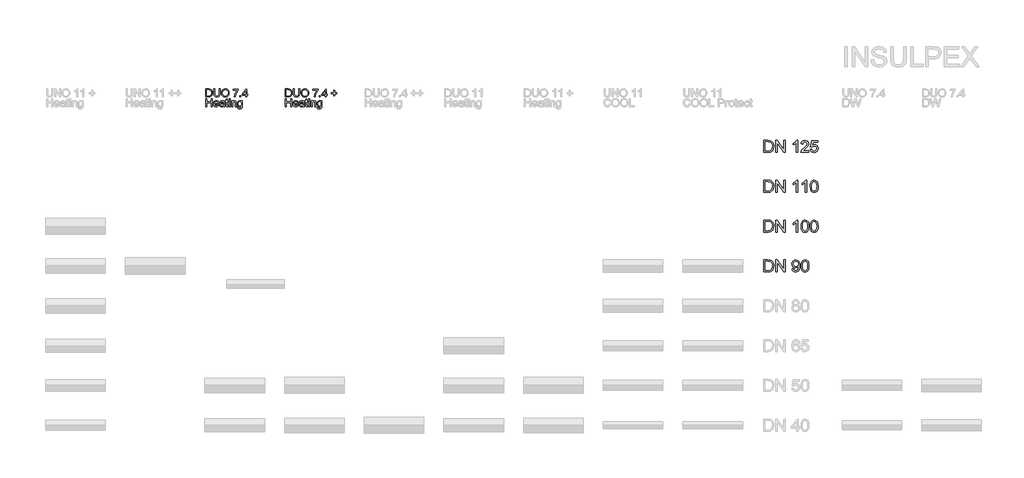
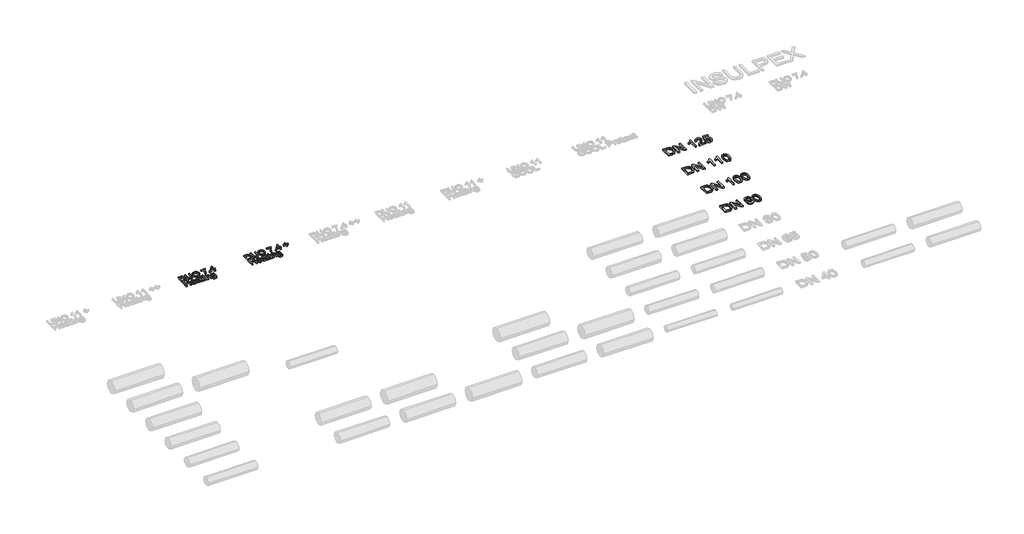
# One storey, part 32 of 44: 6 proxies.
"""IFC4 building model written with IfcOpenShell, lengths in millimetres."""

import ifcopenshell
import ifcopenshell.guid

model = None  # the IFC model being written
_history = None  # IfcOwnerHistory: only IFC2X3 demands one
_inside = {}  # id of a spatial element -> (the spatial element, [elements in it])
_under = {}  # id of a project, library or spatial element -> (it, [spatial elements below it])
_declared = {}  # id of a project -> (the project, [libraries it declares])
_typed = {}  # id of a type object -> (the type object, [elements of that type])
_made_of = {}  # id of a material, layer set ... -> (it, [elements and type objects made of it])


def new_model(schema):
    """Start an empty IFC model of exactly this schema.

    Asked for "IFC4X3", IfcOpenShell would pick the latest addendum, in which some entities
    have other attributes; the version numbers below select the first issue.
    IFC2X3 requires an IfcOwnerHistory on every rooted entity: one is made here for all.
    """
    global model, _history
    if schema == "IFC4X3":
        model = ifcopenshell.file(schema_version=(4, 3, 0, 0))
    else:
        model = ifcopenshell.file(schema=schema)
    _inside.clear()
    _under.clear()
    _declared.clear()
    _typed.clear()
    _made_of.clear()
    _history = None
    if model.schema == "IFC2X3":
        org = make("IfcOrganization", Name="unknown")
        user = make(
            "IfcPersonAndOrganization",
            ThePerson=make("IfcPerson", FamilyName="unknown"),
            TheOrganization=org,
        )
        app = make(
            "IfcApplication",
            ApplicationDeveloper=org,
            Version="unknown",
            ApplicationFullName="unknown",
            ApplicationIdentifier="unknown",
        )
        _history = make(
            "IfcOwnerHistory",
            OwningUser=user,
            OwningApplication=app,
            ChangeAction="ADDED",
            CreationDate=0,
        )
    return model


def make(cls, **values):
    """One entity of the class cls with the attributes given. An attribute that is None is left unset."""
    return model.create_entity(
        cls, **{name: value for name, value in values.items() if value is not None}
    )


def rooted(cls, **values):
    """An entity with a GlobalId (a new one), such as an element, a storey or a relation."""
    return make(cls, GlobalId=ifcopenshell.guid.new(), OwnerHistory=_history, **values)


def si_unit(unit_type, name, prefix=None):
    """IfcSIUnit, for example si_unit("LENGTHUNIT", "METRE", prefix="MILLI")."""
    return make("IfcSIUnit", UnitType=unit_type, Prefix=prefix, Name=name)


def assignment(units):
    """IfcUnitAssignment: the units of a project."""
    return None if units is None else make("IfcUnitAssignment", Units=units)


def point(xyz):
    """IfcCartesianPoint."""
    return None if xyz is None else make("IfcCartesianPoint", Coordinates=xyz)


def direction(xyz):
    """IfcDirection."""
    return None if xyz is None else make("IfcDirection", DirectionRatios=xyz)


def frame(location, z_axis=None, x_axis=None):
    """IfcAxis2Placement3D, a coordinate frame: its origin and axes. An axis left out is left unset."""
    return make(
        "IfcAxis2Placement3D",
        Location=point(location),
        Axis=direction(z_axis),
        RefDirection=direction(x_axis),
    )


def origin():
    """The frame at (0, 0, 0) with its axes left unset."""
    return frame((0.0, 0.0, 0.0))


def origin_with_axes():
    """The frame at (0, 0, 0) with the z axis (0, 0, 1) and the x axis (1, 0, 0) written out."""
    return frame((0.0, 0.0, 0.0), z_axis=(0.0, 0.0, 1.0), x_axis=(1.0, 0.0, 0.0))


def place(relative_to, where):
    """IfcLocalPlacement: puts the frame where relative to a parent placement (None: the world)."""
    return make(
        "IfcLocalPlacement", PlacementRelTo=relative_to, RelativePlacement=where
    )


def context(
    kind, dimensions, precision=None, world=None, true_north=None, identifier=None
):
    """IfcGeometricRepresentationContext, for example the 3D "Model" context."""
    return make(
        "IfcGeometricRepresentationContext",
        ContextIdentifier=identifier,
        ContextType=kind,
        CoordinateSpaceDimension=dimensions,
        Precision=precision,
        WorldCoordinateSystem=world,
        TrueNorth=true_north,
    )


def project(units=None, contexts=None):
    """IfcProject with its units and contexts."""
    return rooted(
        "IfcProject",
        Name="project",
        RepresentationContexts=contexts,
        UnitsInContext=assignment(units),
    )


def spatial(cls, under=None, at=None, **own):
    """A site, building, storey or space (cls), placed at a placement, below another one or the project."""
    s = rooted(cls, ObjectPlacement=at, **own)
    if under is not None:
        _under.setdefault(under.id(), (under, []))[1].append(s)
    return s


def polyline(points):
    """IfcPolyline through the points."""
    return make("IfcPolyline", Points=[point(p) for p in points])


def outline(outer, holes=None, kind="AREA"):
    """IfcArbitraryClosedProfileDef: a profile drawn as a closed curve; with holes, ...WithVoids."""
    if holes is None:
        return make("IfcArbitraryClosedProfileDef", ProfileType=kind, OuterCurve=outer)
    return make(
        "IfcArbitraryProfileDefWithVoids",
        ProfileType=kind,
        OuterCurve=outer,
        InnerCurves=holes,
    )


def extrude(swept, where, along, depth):
    """IfcExtrudedAreaSolid: the profile swept, set in the frame where, extruded along a direction by depth."""
    return make(
        "IfcExtrudedAreaSolid",
        SweptArea=swept,
        Position=where,
        ExtrudedDirection=direction(along),
        Depth=depth,
    )


def shape(context_of_items, identifier, shape_type, items):
    """IfcShapeRepresentation: the items that make up one representation, for example the "Body"."""
    return make(
        "IfcShapeRepresentation",
        ContextOfItems=context_of_items,
        RepresentationIdentifier=identifier,
        RepresentationType=shape_type,
        Items=items,
    )


def made_of(thing, what):
    """Note that an element or type object is made of a material, layer set ...; save() writes the relation."""
    if what is not None:
        _made_of.setdefault(what.id(), (what, []))[1].append(thing)
    return thing


def element(
    cls,
    number,
    at=None,
    inside=None,
    cuts=None,
    type_object=None,
    material=None,
    context=None,
    identifier="Body",
    shape_type=None,
    held_by="IfcProductDefinitionShape",
    body=None,
    shapes=None,
    **own,
):
    """One element of the class cls, such as IfcWall. Its Tag is "e" and its number.

    at: its placement. inside: the storey or other place that contains it. cuts: it is an
    opening in that element (IfcRelVoidsElement). A single representation is given by context,
    identifier, shape_type and body (its items); several are given by shapes. held_by: the class
    of the entity that holds the representations. save() writes the other relations.
    """
    e = rooted(cls, Tag="e%d" % number, ObjectPlacement=at, **own)
    if body is not None:
        shapes = [shape(context, identifier, shape_type, body)]
    if shapes is not None:
        e.Representation = make(held_by, Representations=shapes)
    if inside is not None:
        _inside.setdefault(inside.id(), (inside, []))[1].append(e)
    if cuts is not None:
        rooted(
            "IfcRelVoidsElement", RelatingBuildingElement=cuts, RelatedOpeningElement=e
        )
    if type_object is not None:
        _typed.setdefault(type_object.id(), (type_object, []))[1].append(e)
    return made_of(e, material)


def aggregate(whole, parts):
    """IfcRelAggregates: a whole, such as a stair, and the parts it consists of."""
    return rooted("IfcRelAggregates", RelatingObject=whole, RelatedObjects=parts)


def save(model, path):
    """Write the relations noted so far, then the file.

    IfcRelAggregates (storeys below a building ...), IfcRelContainedInSpatialStructure (elements
    in a storey), IfcRelDefinesByType, IfcRelAssociatesMaterial and IfcRelDeclares: one each for
    every whole, place, type object, material and project.
    """
    for whole, parts in _under.values():
        aggregate(whole, parts)
    for where, things in _inside.values():
        rooted(
            "IfcRelContainedInSpatialStructure",
            RelatedElements=things,
            RelatingStructure=where,
        )
    for kind, things in _typed.values():
        rooted("IfcRelDefinesByType", RelatedObjects=things, RelatingType=kind)
    for what, things in _made_of.values():
        rooted("IfcRelAssociatesMaterial", RelatedObjects=things, RelatingMaterial=what)
    for by, libraries in _declared.values():
        rooted("IfcRelDeclares", RelatingContext=by, RelatedDefinitions=libraries)
    model.write(path)


model = new_model("IFC4")

# Units and contexts
model_context = context("Model", 3, world=origin())
ifc_project = project(units=[si_unit("LENGTHUNIT", "METRE", prefix="MILLI")], contexts=[model_context])

# Site, building, storey
site = spatial("IfcSite", under=ifc_project)
building = spatial("IfcBuilding", under=site)
storey = spatial("IfcBuildingStorey", under=building, Name="REHAU Starting view", Elevation=0.0)

# Proxies
placement = place(None, origin())
element("IfcBuildingElementProxy", 1, Name="100", ObjectType="100", at=placement, inside=storey, context=model_context, shape_type="SweptSolid", body=[
    extrude(outline(polyline([(8010.9874089, 20121.9748178), (8010.9874089, 20222.431128), (8045.6418929, 20222.431128), (8063.5700088, 20220.9841255), (8078.3343395, 20213.7981638), (8090.2291907, 20196.6303374), (8094.1777908, 20172.7425332), (8091.5045149, 20152.4722352), (8084.6373844, 20137.8427946), (8075.4648599, 20128.7315838), (8063.4596442, 20123.6916005), (8047.3096246, 20121.9748178), (8010.9874089, 20121.9748178)]), holes=[polyline([(8023.5444477, 20134.5318566), (8045.7645202, 20134.5318566), (8061.9268025, 20136.3467411), (8071.2464797, 20141.4725636), (8078.8861625, 20153.9437632), (8081.620752, 20172.9387369), (8080.2810484, 20186.6239471), (8076.2619376, 20196.7284393), (8063.2266522, 20207.863001), (8045.4211637, 20209.8740892), (8023.5444477, 20209.8740892), (8023.5444477, 20134.5318566)])]), origin_with_axes(), (0.0, 0.0, 1.0), 20.0),
    extrude(outline(polyline([(8177.3681726, 20222.431128), (8189.9252114, 20222.431128), (8189.9252114, 20164.477451), (8186.5161716, 20140.4547567), (8174.2289129, 20125.9847316), (8163.9650053, 20121.8000739), (8150.9297199, 20120.405188), (8127.9861461, 20125.2612303), (8120.3464634, 20131.2055902), (8115.2574291, 20139.3265853), (8111.4437191, 20164.477451), (8111.4437191, 20222.431128), (8124.0007578, 20222.431128), (8124.0007578, 20164.9189094), (8126.4778299, 20145.7767829), (8134.9881668, 20136.2976902), (8149.7524975, 20132.9622268), (8162.5241341, 20134.6115644), (8171.0160768, 20139.5595772), (8175.7801487, 20149.1980855), (8177.3681726, 20164.9189094), (8177.3681726, 20222.431128)])), origin_with_axes(), (0.0, 0.0, 1.0), 20.0),
    extrude(outline(polyline([(8207.1911397, 20170.8785977), (8210.5388658, 20193.0925389), (8220.5820443, 20209.8986147), (8235.9165921, 20220.4752221), (8255.1384264, 20224.0007578), (8268.3147332, 20222.3452889), (8280.1298766, 20217.3788819), (8289.9400631, 20209.4510249), (8297.1014993, 20198.9112058), (8301.479295, 20186.2683279), (8302.9385603, 20172.0312947), (8301.402653, 20157.6041891), (8296.794931, 20144.7835015), (8289.369846, 20134.2252883), (8279.3818499, 20126.5856055), (8267.667874, 20121.9502924), (8255.06485, 20120.405188), (8241.6862081, 20122.1127736), (8229.8036197, 20127.2355304), (8220.0179586, 20135.3105402), (8212.9300988, 20145.8748848), (8207.1911397, 20170.8785977)]), holes=[polyline([(8219.7481785, 20170.7559704), (8222.2589731, 20155.0412778), (8229.7913569, 20143.0667189), (8241.1129253, 20135.4883498), (8254.9912736, 20132.9622268), (8269.071957, 20135.5128753), (8280.4119195, 20143.1648208), (8287.889121, 20155.5072617), (8290.3815215, 20172.1293965), (8286.1140904, 20192.8534156), (8273.6428907, 20206.575414), (8255.2120028, 20211.4437191), (8241.7046022, 20209.0984714), (8230.2205526, 20202.0627282), (8222.366272, 20189.5455433), (8219.7481785, 20170.7559704)])]), origin_with_axes(), (0.0, 0.0, 1.0), 20.0),
    extrude(outline(polyline([(8354.7363452, 20208.3044594), (8354.7363452, 20220.8614981), (8420.6607988, 20220.8614981), (8420.6607988, 20210.7079551), (8401.9601307, 20183.6931539), (8387.6495211, 20149.2716619), (8382.9896824, 20121.9748178), (8370.4326437, 20121.9748178), (8375.4235761, 20150.3017315), (8389.121049, 20182.3197278), (8408.10376, 20208.3044594), (8354.7363452, 20208.3044594)])), origin_with_axes(), (0.0, 0.0, 1.0), 20.0),
    extrude(outline(polyline([(8437.9267271, 20121.9748178), (8437.9267271, 20134.5318566), (8450.4837658, 20134.5318566), (8450.4837658, 20121.9748178), (8437.9267271, 20121.9748178)])), origin_with_axes(), (0.0, 0.0, 1.0), 20.0),
    extrude(outline(polyline([(8511.6993298, 20121.9748178), (8511.6993298, 20145.5192655), (8466.1800643, 20145.5192655), (8466.1800643, 20158.0763043), (8514.8385895, 20220.8614981), (8524.2563686, 20220.8614981), (8524.2563686, 20158.0763043), (8536.8134074, 20158.0763043), (8536.8134074, 20145.5192655), (8524.2563686, 20145.5192655), (8524.2563686, 20121.9748178), (8511.6993298, 20121.9748178)]), holes=[polyline([(8511.6993298, 20158.0763043), (8511.6993298, 20196.8755921), (8481.6311081, 20158.0763043), (8511.6993298, 20158.0763043)])]), origin_with_axes(), (0.0, 0.0, 1.0), 20.0),
    extrude(outline(polyline([(8010.9874089, 20000.0), (8010.9874089, 20100.4563101), (8023.5444477, 20100.4563101), (8023.5444477, 20059.6459342), (8076.9118625, 20059.6459342), (8076.9118625, 20100.4563101), (8089.4689012, 20100.4563101), (8089.4689012, 20000.0), (8076.9118625, 20000.0), (8076.9118625, 20047.0888954), (8023.5444477, 20047.0888954), (8023.5444477, 20000.0), (8010.9874089, 20000.0)])), origin_with_axes(), (0.0, 0.0, 1.0), 20.0),
    extrude(outline(polyline([(8161.5247213, 20021.9748178), (8173.8365055, 20020.405188), (8169.4004617, 20011.1284304), (8162.321799, 20004.1938547), (8152.7599328, 19999.8712413), (8140.8742787, 19998.4303702), (8126.1406048, 20000.9166393), (8114.803708, 20008.3754468), (8107.5748268, 20020.3224146), (8105.1651997, 20036.2731647), (8107.5993522, 20052.7604095), (8114.9018098, 20065.0905877), (8126.0854225, 20072.7793214), (8140.1630402, 20075.3422326), (8153.8022651, 20072.7854527), (8164.7007692, 20065.1151131), (8171.846877, 20052.8094604), (8174.2289129, 20036.3467411), (8174.1553365, 20032.9622268), (8117.7222385, 20032.9622268), (8119.8958079, 20023.5628418), (8124.9449883, 20016.6527916), (8132.2321175, 20012.4037546), (8141.1195333, 20010.9874089), (8153.4313175, 20013.6116338), (8161.5247213, 20021.9748178)]), holes=[polyline([(8117.7222385, 20045.5192655), (8161.6718741, 20045.5192655), (8156.6441535, 20056.8990819), (8149.3233018, 20061.3136659), (8140.1139892, 20062.7851938), (8124.6506827, 20058.088567), (8119.7854433, 20052.5979283), (8117.7222385, 20045.5192655)])]), origin_with_axes(), (0.0, 0.0, 1.0), 20.0),
    extrude(outline(polyline([(8233.8748471, 20009.4177791), (8221.697953, 20000.9074423), (8208.2457347, 19998.4303702), (8197.7519008, 19999.9202922), (8190.0110505, 20004.3900585), (8185.2377816, 20011.1774813), (8183.646692, 20019.6203731), (8186.0501877, 20029.5531869), (8192.3654953, 20036.7636741), (8201.157875, 20040.8839524), (8212.0226566, 20042.7724133), (8233.8012707, 20047.0888954), (8233.8748471, 20049.8847985), (8230.4167563, 20059.1554248), (8216.5353424, 20062.7851938), (8203.8311508, 20060.3694354), (8197.7733606, 20051.7977849), (8185.2163218, 20053.3674148), (8190.6487126, 20065.6301479), (8201.5870706, 20072.8161096), (8218.1540231, 20075.3422326), (8233.372075, 20073.1104152), (8241.968251, 20067.5063461), (8245.8187492, 20058.9837466), (8246.4318858, 20047.9963376), (8246.4318858, 20032.3736156), (8247.069548, 20010.5582133), (8249.5711455, 20000.0), (8237.0141068, 20000.0), (8233.8748471, 20009.4177791)]), holes=[polyline([(8233.8748471, 20034.5318566), (8213.6168119, 20030.6813584), (8202.8133439, 20028.6457447), (8197.9205134, 20025.3348067), (8196.2037308, 20020.5032899), (8199.9438644, 20013.7097357), (8210.9190106, 20010.9874089), (8223.6232021, 20013.9917785), (8231.8147079, 20021.2635793), (8233.8012707, 20030.975664), (8233.8748471, 20034.5318566)])]), origin_with_axes(), (0.0, 0.0, 1.0), 20.0),
    extrude(outline(polyline([(8290.3815215, 20010.4723741), (8291.9511514, 19999.632118), (8282.5578978, 19998.4303702), (8272.0364727, 20000.5150348), (8266.7880229, 20005.9842138), (8265.267444, 20020.2335097), (8265.267444, 20061.215564), (8255.8496649, 20061.215564), (8255.8496649, 20073.7726028), (8265.267444, 20073.7726028), (8265.267444, 20091.7007187), (8277.8244828, 20099.082884), (8277.8244828, 20073.7726028), (8290.3815215, 20073.7726028), (8290.3815215, 20061.215564), (8277.8244828, 20061.215564), (8277.8244828, 20020.6013917), (8278.4866703, 20014.1266686), (8280.6326487, 20011.8335375), (8284.9123425, 20010.9874089), (8290.3815215, 20010.4723741)])), origin_with_axes(), (0.0, 0.0, 1.0), 20.0),
    extrude(outline(polyline([(8302.9385603, 20087.8992714), (8302.9385603, 20100.4563101), (8315.4955991, 20100.4563101), (8315.4955991, 20087.8992714), (8302.9385603, 20087.8992714)])), origin_with_axes(), (0.0, 0.0, 1.0), 20.0),
    extrude(outline(polyline([(8302.9385603, 20000.0), (8302.9385603, 20073.7726028), (8315.4955991, 20073.7726028), (8315.4955991, 20000.0), (8302.9385603, 20000.0)])), origin_with_axes(), (0.0, 0.0, 1.0), 20.0),
    extrude(outline(polyline([(8334.3311572, 20000.0), (8334.3311572, 20073.7726028), (8346.888196, 20073.7726028), (8346.888196, 20063.4719069), (8356.4899161, 20072.3746512), (8369.5987778, 20075.3422326), (8381.4568408, 20072.9509996), (8389.5502447, 20066.6724803), (8393.3149038, 20057.4386422), (8393.9770914, 20045.2985363), (8393.9770914, 20000.0), (8381.4200526, 20000.0), (8381.4200526, 20043.6062792), (8379.9730501, 20054.7163154), (8374.8594904, 20060.5901646), (8366.2387889, 20062.7851938), (8352.6148924, 20057.8555751), (8348.3198701, 20050.712533), (8346.888196, 20039.1426443), (8346.888196, 20000.0), (8334.3311572, 20000.0)])), origin_with_axes(), (0.0, 0.0, 1.0), 20.0),
    extrude(outline(polyline([(8408.10376, 19993.7214806), (8420.6607988, 19992.1518508), (8424.7320262, 19985.5299749), (8436.9211829, 19982.7340717), (8449.7725273, 19985.8978569), (8455.9038939, 19994.7760757), (8456.7622852, 20009.4177791), (8447.9208546, 20002.3544448), (8437.1419121, 20000.0), (8424.1955316, 20002.7407209), (8414.5416949, 20010.9628835), (8408.5360213, 20023.0171502), (8406.5341301, 20037.2541834), (8410.127111, 20056.7151409), (8420.5259087, 20070.4861903), (8436.5287755, 20075.3422326), (8447.7307822, 20072.5953804), (8456.7622852, 20064.3548237), (8456.7622852, 20073.7726028), (8469.319324, 20073.7726028), (8469.319324, 20010.0799667), (8465.8857587, 19985.6893904), (8455.0087144, 19974.3463622), (8436.6759283, 19970.1770329), (8424.9926092, 19971.6454952), (8415.7924937, 19976.0508821), (8409.8910533, 19983.4054563), (8408.10376, 19993.7214806)]), holes=[polyline([(8419.0911689, 20038.1125747), (8420.4308725, 20026.5948026), (8424.4499833, 20018.6761426), (8430.4924451, 20014.0868147), (8437.9022016, 20012.5570388), (8445.2567758, 20014.0776177), (8451.3298944, 20018.6393544), (8455.4041875, 20026.4568468), (8456.7622852, 20037.7446927), (8455.3643336, 20048.6309341), (8451.1704789, 20056.4698863), (8445.0084555, 20061.2063669), (8437.7059979, 20062.7851938), (8430.5353646, 20061.2308924), (8424.5235597, 20056.5679881), (8420.4492666, 20048.8455319), (8419.0911689, 20038.1125747)])]), origin_with_axes(), (0.0, 0.0, 1.0), 20.0),
])
element("IfcBuildingElementProxy", 2, Name="100", ObjectType="100", at=placement, inside=storey, context=model_context, shape_type="SweptSolid", body=[
    extrude(outline(polyline([(9010.9874089, 20121.9748178), (9010.9874089, 20222.431128), (9045.6418929, 20222.431128), (9063.5700088, 20220.9841255), (9078.3343395, 20213.7981638), (9090.2291907, 20196.6303374), (9094.1777908, 20172.7425332), (9091.5045149, 20152.4722352), (9084.6373844, 20137.8427946), (9075.4648599, 20128.7315838), (9063.4596442, 20123.6916005), (9047.3096246, 20121.9748178), (9010.9874089, 20121.9748178)]), holes=[polyline([(9023.5444477, 20134.5318566), (9045.7645202, 20134.5318566), (9061.9268025, 20136.3467411), (9071.2464797, 20141.4725636), (9078.8861625, 20153.9437632), (9081.620752, 20172.9387369), (9080.2810484, 20186.6239471), (9076.2619376, 20196.7284393), (9063.2266522, 20207.863001), (9045.4211637, 20209.8740892), (9023.5444477, 20209.8740892), (9023.5444477, 20134.5318566)])]), origin_with_axes(), (0.0, 0.0, 1.0), 20.0),
    extrude(outline(polyline([(9177.3681726, 20222.431128), (9189.9252114, 20222.431128), (9189.9252114, 20164.477451), (9186.5161716, 20140.4547567), (9174.2289129, 20125.9847316), (9163.9650053, 20121.8000739), (9150.9297199, 20120.405188), (9127.9861461, 20125.2612303), (9120.3464634, 20131.2055902), (9115.2574291, 20139.3265853), (9111.4437191, 20164.477451), (9111.4437191, 20222.431128), (9124.0007578, 20222.431128), (9124.0007578, 20164.9189094), (9126.4778299, 20145.7767829), (9134.9881668, 20136.2976902), (9149.7524975, 20132.9622268), (9162.5241341, 20134.6115644), (9171.0160768, 20139.5595772), (9175.7801487, 20149.1980855), (9177.3681726, 20164.9189094), (9177.3681726, 20222.431128)])), origin_with_axes(), (0.0, 0.0, 1.0), 20.0),
    extrude(outline(polyline([(9207.1911397, 20170.8785977), (9210.5388658, 20193.0925389), (9220.5820443, 20209.8986147), (9235.9165921, 20220.4752221), (9255.1384264, 20224.0007578), (9268.3147332, 20222.3452889), (9280.1298766, 20217.3788819), (9289.9400631, 20209.4510249), (9297.1014993, 20198.9112058), (9301.479295, 20186.2683279), (9302.9385603, 20172.0312947), (9301.402653, 20157.6041891), (9296.794931, 20144.7835015), (9289.369846, 20134.2252883), (9279.3818499, 20126.5856055), (9267.667874, 20121.9502924), (9255.06485, 20120.405188), (9241.6862081, 20122.1127736), (9229.8036197, 20127.2355304), (9220.0179586, 20135.3105402), (9212.9300988, 20145.8748848), (9207.1911397, 20170.8785977)]), holes=[polyline([(9219.7481785, 20170.7559704), (9222.2589731, 20155.0412778), (9229.7913569, 20143.0667189), (9241.1129253, 20135.4883498), (9254.9912736, 20132.9622268), (9269.071957, 20135.5128753), (9280.4119195, 20143.1648208), (9287.889121, 20155.5072617), (9290.3815215, 20172.1293965), (9286.1140904, 20192.8534156), (9273.6428907, 20206.575414), (9255.2120028, 20211.4437191), (9241.7046022, 20209.0984714), (9230.2205526, 20202.0627282), (9222.366272, 20189.5455433), (9219.7481785, 20170.7559704)])]), origin_with_axes(), (0.0, 0.0, 1.0), 20.0),
    extrude(outline(polyline([(9354.7363452, 20208.3044594), (9354.7363452, 20220.8614981), (9420.6607988, 20220.8614981), (9420.6607988, 20210.7079551), (9401.9601307, 20183.6931539), (9387.6495211, 20149.2716619), (9382.9896824, 20121.9748178), (9370.4326437, 20121.9748178), (9375.4235761, 20150.3017315), (9389.121049, 20182.3197278), (9408.10376, 20208.3044594), (9354.7363452, 20208.3044594)])), origin_with_axes(), (0.0, 0.0, 1.0), 20.0),
    extrude(outline(polyline([(9437.9267271, 20121.9748178), (9437.9267271, 20134.5318566), (9450.4837658, 20134.5318566), (9450.4837658, 20121.9748178), (9437.9267271, 20121.9748178)])), origin_with_axes(), (0.0, 0.0, 1.0), 20.0),
    extrude(outline(polyline([(9511.6993298, 20121.9748178), (9511.6993298, 20145.5192655), (9466.1800643, 20145.5192655), (9466.1800643, 20158.0763043), (9514.8385895, 20220.8614981), (9524.2563686, 20220.8614981), (9524.2563686, 20158.0763043), (9536.8134074, 20158.0763043), (9536.8134074, 20145.5192655), (9524.2563686, 20145.5192655), (9524.2563686, 20121.9748178), (9511.6993298, 20121.9748178)]), holes=[polyline([(9511.6993298, 20158.0763043), (9511.6993298, 20196.8755921), (9481.6311081, 20158.0763043), (9511.6993298, 20158.0763043)])]), origin_with_axes(), (0.0, 0.0, 1.0), 20.0),
    extrude(outline(polyline([(9615.2948997, 20137.6711163), (9615.2948997, 20164.3548237), (9588.6111923, 20164.3548237), (9588.6111923, 20176.9118625), (9615.2948997, 20176.9118625), (9615.2948997, 20203.5955698), (9627.8519384, 20203.5955698), (9627.8519384, 20176.9118625), (9654.5356458, 20176.9118625), (9654.5356458, 20164.3548237), (9627.8519384, 20164.3548237), (9627.8519384, 20137.6711163), (9615.2948997, 20137.6711163)])), origin_with_axes(), (0.0, 0.0, 1.0), 20.0),
    extrude(outline(polyline([(9010.9874089, 20000.0), (9010.9874089, 20100.4563101), (9023.5444477, 20100.4563101), (9023.5444477, 20059.6459342), (9076.9118625, 20059.6459342), (9076.9118625, 20100.4563101), (9089.4689012, 20100.4563101), (9089.4689012, 20000.0), (9076.9118625, 20000.0), (9076.9118625, 20047.0888954), (9023.5444477, 20047.0888954), (9023.5444477, 20000.0), (9010.9874089, 20000.0)])), origin_with_axes(), (0.0, 0.0, 1.0), 20.0),
    extrude(outline(polyline([(9161.5247213, 20021.9748178), (9173.8365055, 20020.405188), (9169.4004617, 20011.1284304), (9162.321799, 20004.1938547), (9152.7599328, 19999.8712413), (9140.8742787, 19998.4303702), (9126.1406048, 20000.9166393), (9114.803708, 20008.3754468), (9107.5748268, 20020.3224146), (9105.1651997, 20036.2731647), (9107.5993522, 20052.7604095), (9114.9018098, 20065.0905877), (9126.0854225, 20072.7793214), (9140.1630402, 20075.3422326), (9153.8022651, 20072.7854527), (9164.7007692, 20065.1151131), (9171.846877, 20052.8094604), (9174.2289129, 20036.3467411), (9174.1553365, 20032.9622268), (9117.7222385, 20032.9622268), (9119.8958079, 20023.5628418), (9124.9449883, 20016.6527916), (9132.2321175, 20012.4037546), (9141.1195333, 20010.9874089), (9153.4313175, 20013.6116338), (9161.5247213, 20021.9748178)]), holes=[polyline([(9117.7222385, 20045.5192655), (9161.6718741, 20045.5192655), (9156.6441535, 20056.8990819), (9149.3233018, 20061.3136659), (9140.1139892, 20062.7851938), (9124.6506827, 20058.088567), (9119.7854433, 20052.5979283), (9117.7222385, 20045.5192655)])]), origin_with_axes(), (0.0, 0.0, 1.0), 20.0),
    extrude(outline(polyline([(9233.8748471, 20009.4177791), (9221.697953, 20000.9074423), (9208.2457347, 19998.4303702), (9197.7519008, 19999.9202922), (9190.0110505, 20004.3900585), (9185.2377816, 20011.1774813), (9183.646692, 20019.6203731), (9186.0501877, 20029.5531869), (9192.3654953, 20036.7636741), (9201.157875, 20040.8839524), (9212.0226566, 20042.7724133), (9233.8012707, 20047.0888954), (9233.8748471, 20049.8847985), (9230.4167563, 20059.1554248), (9216.5353424, 20062.7851938), (9203.8311508, 20060.3694354), (9197.7733606, 20051.7977849), (9185.2163218, 20053.3674148), (9190.6487126, 20065.6301479), (9201.5870706, 20072.8161096), (9218.1540231, 20075.3422326), (9233.372075, 20073.1104152), (9241.968251, 20067.5063461), (9245.8187492, 20058.9837466), (9246.4318858, 20047.9963376), (9246.4318858, 20032.3736156), (9247.069548, 20010.5582133), (9249.5711455, 20000.0), (9237.0141068, 20000.0), (9233.8748471, 20009.4177791)]), holes=[polyline([(9233.8748471, 20034.5318566), (9213.6168119, 20030.6813584), (9202.8133439, 20028.6457447), (9197.9205134, 20025.3348067), (9196.2037308, 20020.5032899), (9199.9438644, 20013.7097357), (9210.9190106, 20010.9874089), (9223.6232021, 20013.9917785), (9231.8147079, 20021.2635793), (9233.8012707, 20030.975664), (9233.8748471, 20034.5318566)])]), origin_with_axes(), (0.0, 0.0, 1.0), 20.0),
    extrude(outline(polyline([(9290.3815215, 20010.4723741), (9291.9511514, 19999.632118), (9282.5578978, 19998.4303702), (9272.0364727, 20000.5150348), (9266.7880229, 20005.9842138), (9265.267444, 20020.2335097), (9265.267444, 20061.215564), (9255.8496649, 20061.215564), (9255.8496649, 20073.7726028), (9265.267444, 20073.7726028), (9265.267444, 20091.7007187), (9277.8244828, 20099.082884), (9277.8244828, 20073.7726028), (9290.3815215, 20073.7726028), (9290.3815215, 20061.215564), (9277.8244828, 20061.215564), (9277.8244828, 20020.6013917), (9278.4866703, 20014.1266686), (9280.6326487, 20011.8335375), (9284.9123425, 20010.9874089), (9290.3815215, 20010.4723741)])), origin_with_axes(), (0.0, 0.0, 1.0), 20.0),
    extrude(outline(polyline([(9302.9385603, 20087.8992714), (9302.9385603, 20100.4563101), (9315.4955991, 20100.4563101), (9315.4955991, 20087.8992714), (9302.9385603, 20087.8992714)])), origin_with_axes(), (0.0, 0.0, 1.0), 20.0),
    extrude(outline(polyline([(9302.9385603, 20000.0), (9302.9385603, 20073.7726028), (9315.4955991, 20073.7726028), (9315.4955991, 20000.0), (9302.9385603, 20000.0)])), origin_with_axes(), (0.0, 0.0, 1.0), 20.0),
    extrude(outline(polyline([(9334.3311572, 20000.0), (9334.3311572, 20073.7726028), (9346.888196, 20073.7726028), (9346.888196, 20063.4719069), (9356.4899161, 20072.3746512), (9369.5987778, 20075.3422326), (9381.4568408, 20072.9509996), (9389.5502447, 20066.6724803), (9393.3149038, 20057.4386422), (9393.9770914, 20045.2985363), (9393.9770914, 20000.0), (9381.4200526, 20000.0), (9381.4200526, 20043.6062792), (9379.9730501, 20054.7163154), (9374.8594904, 20060.5901646), (9366.2387889, 20062.7851938), (9352.6148924, 20057.8555751), (9348.3198701, 20050.712533), (9346.888196, 20039.1426443), (9346.888196, 20000.0), (9334.3311572, 20000.0)])), origin_with_axes(), (0.0, 0.0, 1.0), 20.0),
    extrude(outline(polyline([(9408.10376, 19993.7214806), (9420.6607988, 19992.1518508), (9424.7320262, 19985.5299749), (9436.9211829, 19982.7340717), (9449.7725273, 19985.8978569), (9455.9038939, 19994.7760757), (9456.7622852, 20009.4177791), (9447.9208546, 20002.3544448), (9437.1419121, 20000.0), (9424.1955316, 20002.7407209), (9414.5416949, 20010.9628835), (9408.5360213, 20023.0171502), (9406.5341301, 20037.2541834), (9410.127111, 20056.7151409), (9420.5259087, 20070.4861903), (9436.5287755, 20075.3422326), (9447.7307822, 20072.5953804), (9456.7622852, 20064.3548237), (9456.7622852, 20073.7726028), (9469.319324, 20073.7726028), (9469.319324, 20010.0799667), (9465.8857587, 19985.6893904), (9455.0087144, 19974.3463622), (9436.6759283, 19970.1770329), (9424.9926092, 19971.6454952), (9415.7924937, 19976.0508821), (9409.8910533, 19983.4054563), (9408.10376, 19993.7214806)]), holes=[polyline([(9419.0911689, 20038.1125747), (9420.4308725, 20026.5948026), (9424.4499833, 20018.6761426), (9430.4924451, 20014.0868147), (9437.9022016, 20012.5570388), (9445.2567758, 20014.0776177), (9451.3298944, 20018.6393544), (9455.4041875, 20026.4568468), (9456.7622852, 20037.7446927), (9455.3643336, 20048.6309341), (9451.1704789, 20056.4698863), (9445.0084555, 20061.2063669), (9437.7059979, 20062.7851938), (9430.5353646, 20061.2308924), (9424.5235597, 20056.5679881), (9420.4492666, 20048.8455319), (9419.0911689, 20038.1125747)])]), origin_with_axes(), (0.0, 0.0, 1.0), 20.0),
])
element("IfcBuildingElementProxy", 3, Name="150", ObjectType="150", at=placement, inside=storey, context=model_context, shape_type="SweptSolid", body=[
    extrude(outline(polyline([(15016.4811134, 17925.0), (15016.4811134, 18075.6844652), (15068.4628393, 18075.6844652), (15095.3550131, 18073.5139615), (15117.5015093, 18062.735019), (15127.9217668, 18051.2571007), (15135.343786, 18036.9832793), (15139.7859611, 18020.1894663), (15141.2666861, 18001.151573), (15137.2567724, 17970.7461261), (15126.9560765, 17948.8019651), (15113.1972899, 17935.135149), (15095.1894663, 17927.575174), (15070.9644369, 17925.0), (15016.4811134, 17925.0)]), holes=[polyline([(15035.3166715, 17943.8355582), (15068.6467803, 17943.8355582), (15092.8902038, 17946.5578849), (15106.8697196, 17954.2466186), (15118.3292437, 17972.9534181), (15122.431128, 18001.4458786), (15120.4215726, 18021.9736939), (15114.3929064, 18037.1304321), (15105.4855636, 18047.5414926), (15094.8399784, 18053.8322747), (15068.1317455, 18056.8489071), (15035.3166715, 18056.8489071), (15035.3166715, 17943.8355582)])]), origin_with_axes(), (0.0, 0.0, 1.0), 20.0),
    extrude(outline(polyline([(15167.1655786, 17925.0), (15167.1655786, 18075.6844652), (15187.3255119, 18075.6844652), (15266.0522589, 17956.3067578), (15266.0522589, 18075.6844652), (15284.8878171, 18075.6844652), (15284.8878171, 17925.0), (15264.7278837, 17925.0), (15186.0011368, 18044.4144956), (15186.0011368, 17925.0), (15167.1655786, 17925.0)])), origin_with_axes(), (0.0, 0.0, 1.0), 20.0),
    extrude(outline(polyline([(15372.0022735, 17962.6711163), (15390.8378317, 17965.0255611), (15394.0567991, 17954.3339906), (15399.2991176, 17947.0545256), (15406.4360283, 17942.8744664), (15415.3387726, 17941.4811134), (15430.5874813, 17945.0679628), (15440.9249653, 17954.6512888), (15447.0869887, 17971.0220376), (15449.8093155, 17992.8742281), (15449.6989509, 17996.5530481), (15434.6341832, 17982.2792266), (15413.9776092, 17976.7977849), (15396.8021185, 17980.1455111), (15382.5053045, 17990.1886895), (15372.8621977, 18005.7041127), (15369.6478288, 18025.4685729), (15373.0185475, 18045.8860236), (15383.1307039, 18061.8888904), (15398.3196318, 18072.2355715), (15416.9206651, 18075.6844652), (15430.9691588, 18073.7162966), (15443.7576567, 18067.8117905), (15454.4538257, 18058.2652528), (15462.2253328, 18045.3709888), (15466.957215, 18027.5471062), (15468.5345091, 18003.2117122), (15466.9618135, 17977.4093887), (15462.2437269, 17957.4655861), (15454.421636, 17942.4789933), (15443.5369275, 17931.5482995), (15430.0586509, 17924.8712413), (15414.4558558, 17922.6455552), (15398.3518214, 17925.271313), (15385.5035427, 17933.1485862), (15376.518025, 17945.7807342), (15372.0022735, 17962.6711163)]), holes=[polyline([(15449.6989509, 18025.9100313), (15447.6664029, 18038.6755365), (15441.5687588, 18048.4979858), (15432.1049945, 18054.7611767), (15419.9740857, 18056.8489071), (15407.3925215, 18054.6002284), (15397.3125548, 18047.8541923), (15390.6906789, 18037.5305038), (15388.4833869, 18024.5488679), (15390.5711172, 18012.9100013), (15396.8343082, 18003.6715647), (15406.6659545, 17997.6428985), (15419.4590509, 17995.6333431), (15431.4933907, 17997.6428985), (15441.1824827, 18003.6715647), (15447.5698339, 18013.2502921), (15449.6989509, 18025.9100313)])]), origin_with_axes(), (0.0, 0.0, 1.0), 20.0),
    extrude(outline(polyline([(15485.0156224, 17999.128222), (15486.3997784, 18023.2474853), (15490.5522465, 18042.4831152), (15497.4316398, 18057.1294171), (15506.9965717, 18067.4806967), (15519.31602, 18073.6335231), (15534.4589626, 18075.6844652), (15556.4583059, 18070.8284229), (15571.6518323, 18056.830513), (15580.4810002, 18034.5368641), (15583.9023027, 17999.128222), (15582.5319423, 17975.1469145), (15578.420861, 17955.9572699), (15571.5828544, 17941.2971724), (15562.0317181, 17930.904506), (15549.6846787, 17924.7102929), (15534.4589626, 17922.6455552), (15514.8876404, 17926.2324047), (15500.0252078, 17936.992953), (15488.7680188, 17962.4779783), (15485.0156224, 17999.128222)]), holes=[polyline([(15503.8511806, 17999.1650102), (15506.0584726, 17969.536714), (15512.6803485, 17952.3888145), (15522.5395859, 17944.2080387), (15534.4589626, 17941.4811134), (15546.3783392, 17944.2172357), (15556.2375767, 17952.4256027), (15562.8594526, 17969.5826993), (15565.0667446, 17999.1650102), (15562.933029, 18028.1265203), (15556.5318823, 18045.407777), (15546.6910389, 18053.9886246), (15534.2382334, 18056.8489071), (15522.4476155, 18054.3289154), (15512.9746541, 18046.7689404), (15506.132049, 18028.4116288), (15503.8511806, 17999.1650102)])]), origin_with_axes(), (0.0, 0.0, 1.0), 20.0),
])
element("IfcBuildingElementProxy", 4, Name="150", ObjectType="150", at=placement, inside=storey, context=model_context, shape_type="SweptSolid", body=[
    extrude(outline(polyline([(15016.4811134, 18425.0), (15016.4811134, 18575.6844652), (15068.4628393, 18575.6844652), (15095.3550131, 18573.5139615), (15117.5015093, 18562.735019), (15127.9217668, 18551.2571007), (15135.343786, 18536.9832793), (15139.7859611, 18520.1894663), (15141.2666861, 18501.151573), (15137.2567724, 18470.7461261), (15126.9560765, 18448.8019651), (15113.1972899, 18435.135149), (15095.1894663, 18427.575174), (15070.9644369, 18425.0), (15016.4811134, 18425.0)]), holes=[polyline([(15035.3166715, 18443.8355582), (15068.6467803, 18443.8355582), (15092.8902038, 18446.5578849), (15106.8697196, 18454.2466186), (15118.3292437, 18472.9534181), (15122.431128, 18501.4458786), (15120.4215726, 18521.9736939), (15114.3929064, 18537.1304321), (15105.4855636, 18547.5414926), (15094.8399784, 18553.8322747), (15068.1317455, 18556.8489071), (15035.3166715, 18556.8489071), (15035.3166715, 18443.8355582)])]), origin_with_axes(), (0.0, 0.0, 1.0), 20.0),
    extrude(outline(polyline([(15167.1655786, 18425.0), (15167.1655786, 18575.6844652), (15187.3255119, 18575.6844652), (15266.0522589, 18456.3067578), (15266.0522589, 18575.6844652), (15284.8878171, 18575.6844652), (15284.8878171, 18425.0), (15264.7278837, 18425.0), (15186.0011368, 18544.4144956), (15186.0011368, 18425.0), (15167.1655786, 18425.0)])), origin_with_axes(), (0.0, 0.0, 1.0), 20.0),
    extrude(outline(polyline([(15440.2811718, 18425.0), (15421.4456137, 18425.0), (15421.4456137, 18542.4279329), (15403.6033369, 18529.7176099), (15383.7744974, 18520.2078604), (15383.7744974, 18538.0133489), (15411.3840411, 18555.6348965), (15428.141066, 18575.6844652), (15440.2811718, 18575.6844652), (15440.2811718, 18425.0)])), origin_with_axes(), (0.0, 0.0, 1.0), 20.0),
    extrude(outline(polyline([(15485.0156224, 18499.128222), (15486.3997784, 18523.2474853), (15490.5522465, 18542.4831152), (15497.4316398, 18557.1294171), (15506.9965717, 18567.4806967), (15519.31602, 18573.6335231), (15534.4589626, 18575.6844652), (15556.4583059, 18570.8284229), (15571.6518323, 18556.830513), (15580.4810002, 18534.5368641), (15583.9023027, 18499.128222), (15582.5319423, 18475.1469145), (15578.420861, 18455.9572699), (15571.5828544, 18441.2971724), (15562.0317181, 18430.904506), (15549.6846787, 18424.7102929), (15534.4589626, 18422.6455552), (15514.8876404, 18426.2324047), (15500.0252078, 18436.992953), (15488.7680188, 18462.4779783), (15485.0156224, 18499.128222)]), holes=[polyline([(15503.8511806, 18499.1650102), (15506.0584726, 18469.536714), (15512.6803485, 18452.3888145), (15522.5395859, 18444.2080387), (15534.4589626, 18441.4811134), (15546.3783392, 18444.2172357), (15556.2375767, 18452.4256027), (15562.8594526, 18469.5826993), (15565.0667446, 18499.1650102), (15562.933029, 18528.1265203), (15556.5318823, 18545.407777), (15546.6910389, 18553.9886246), (15534.2382334, 18556.8489071), (15522.4476155, 18554.3289154), (15512.9746541, 18546.7689404), (15506.132049, 18528.4116288), (15503.8511806, 18499.1650102)])]), origin_with_axes(), (0.0, 0.0, 1.0), 20.0),
    extrude(outline(polyline([(15600.3834161, 18499.128222), (15601.7675721, 18523.2474853), (15605.9200402, 18542.4831152), (15612.7994335, 18557.1294171), (15622.3643653, 18567.4806967), (15634.6838137, 18573.6335231), (15649.8267563, 18575.6844652), (15671.8260996, 18570.8284229), (15687.019626, 18556.830513), (15695.8487939, 18534.5368641), (15699.2700964, 18499.128222), (15697.899736, 18475.1469145), (15693.7886547, 18455.9572699), (15686.9506481, 18441.2971724), (15677.3995118, 18430.904506), (15665.0524724, 18424.7102929), (15649.8267563, 18422.6455552), (15630.2554341, 18426.2324047), (15615.3930015, 18436.992953), (15604.1358125, 18462.4779783), (15600.3834161, 18499.128222)]), holes=[polyline([(15619.2189743, 18499.1650102), (15621.4262663, 18469.536714), (15628.0481422, 18452.3888145), (15637.9073796, 18444.2080387), (15649.8267563, 18441.4811134), (15661.7461329, 18444.2172357), (15671.6053704, 18452.4256027), (15678.2272463, 18469.5826993), (15680.4345383, 18499.1650102), (15678.3008227, 18528.1265203), (15671.899676, 18545.407777), (15662.0588326, 18553.9886246), (15649.6060271, 18556.8489071), (15637.8154091, 18554.3289154), (15628.3424478, 18546.7689404), (15621.4998427, 18528.4116288), (15619.2189743, 18499.1650102)])]), origin_with_axes(), (0.0, 0.0, 1.0), 20.0),
])
element("IfcBuildingElementProxy", 5, Name="150", ObjectType="150", at=placement, inside=storey, context=model_context, shape_type="SweptSolid", body=[
    extrude(outline(polyline([(15016.4811134, 18925.0), (15016.4811134, 19075.6844652), (15068.4628393, 19075.6844652), (15095.3550131, 19073.5139615), (15117.5015093, 19062.735019), (15127.9217668, 19051.2571007), (15135.343786, 19036.9832793), (15139.7859611, 19020.1894663), (15141.2666861, 19001.151573), (15137.2567724, 18970.7461261), (15126.9560765, 18948.8019651), (15113.1972899, 18935.135149), (15095.1894663, 18927.575174), (15070.9644369, 18925.0), (15016.4811134, 18925.0)]), holes=[polyline([(15035.3166715, 18943.8355582), (15068.6467803, 18943.8355582), (15092.8902038, 18946.5578849), (15106.8697196, 18954.2466186), (15118.3292437, 18972.9534181), (15122.431128, 19001.4458786), (15120.4215726, 19021.9736939), (15114.3929064, 19037.1304321), (15105.4855636, 19047.5414926), (15094.8399784, 19053.8322747), (15068.1317455, 19056.8489071), (15035.3166715, 19056.8489071), (15035.3166715, 18943.8355582)])]), origin_with_axes(), (0.0, 0.0, 1.0), 20.0),
    extrude(outline(polyline([(15167.1655786, 18925.0), (15167.1655786, 19075.6844652), (15187.3255119, 19075.6844652), (15266.0522589, 18956.3067578), (15266.0522589, 19075.6844652), (15284.8878171, 19075.6844652), (15284.8878171, 18925.0), (15264.7278837, 18925.0), (15186.0011368, 19044.4144956), (15186.0011368, 18925.0), (15167.1655786, 18925.0)])), origin_with_axes(), (0.0, 0.0, 1.0), 20.0),
    extrude(outline(polyline([(15440.2811718, 18925.0), (15421.4456137, 18925.0), (15421.4456137, 19042.4279329), (15403.6033369, 19029.7176099), (15383.7744974, 19020.2078604), (15383.7744974, 19038.0133489), (15411.3840411, 19055.6348965), (15428.141066, 19075.6844652), (15440.2811718, 19075.6844652), (15440.2811718, 18925.0)])), origin_with_axes(), (0.0, 0.0, 1.0), 20.0),
    extrude(outline(polyline([(15555.6489655, 18925.0), (15536.8134074, 18925.0), (15536.8134074, 19042.4279329), (15518.9711306, 19029.7176099), (15499.1422911, 19020.2078604), (15499.1422911, 19038.0133489), (15526.7518348, 19055.6348965), (15543.5088597, 19075.6844652), (15555.6489655, 19075.6844652), (15555.6489655, 18925.0)])), origin_with_axes(), (0.0, 0.0, 1.0), 20.0),
    extrude(outline(polyline([(15600.3834161, 18999.128222), (15601.7675721, 19023.2474853), (15605.9200402, 19042.4831152), (15612.7994335, 19057.1294171), (15622.3643653, 19067.4806967), (15634.6838137, 19073.6335231), (15649.8267563, 19075.6844652), (15671.8260996, 19070.8284229), (15687.019626, 19056.830513), (15695.8487939, 19034.5368641), (15699.2700964, 18999.128222), (15697.899736, 18975.1469145), (15693.7886547, 18955.9572699), (15686.9506481, 18941.2971724), (15677.3995118, 18930.904506), (15665.0524724, 18924.7102929), (15649.8267563, 18922.6455552), (15630.2554341, 18926.2324047), (15615.3930015, 18936.992953), (15604.1358125, 18962.4779783), (15600.3834161, 18999.128222)]), holes=[polyline([(15619.2189743, 18999.1650102), (15621.4262663, 18969.536714), (15628.0481422, 18952.3888145), (15637.9073796, 18944.2080387), (15649.8267563, 18941.4811134), (15661.7461329, 18944.2172357), (15671.6053704, 18952.4256027), (15678.2272463, 18969.5826993), (15680.4345383, 18999.1650102), (15678.3008227, 19028.1265203), (15671.899676, 19045.407777), (15662.0588326, 19053.9886246), (15649.6060271, 19056.8489071), (15637.8154091, 19054.3289154), (15628.3424478, 19046.7689404), (15621.4998427, 19028.4116288), (15619.2189743, 18999.1650102)])]), origin_with_axes(), (0.0, 0.0, 1.0), 20.0),
])
element("IfcBuildingElementProxy", 6, Name="150", ObjectType="150", at=placement, inside=storey, context=model_context, shape_type="SweptSolid", body=[
    extrude(outline(polyline([(15016.4811134, 19425.0), (15016.4811134, 19575.6844652), (15068.4628393, 19575.6844652), (15095.3550131, 19573.5139615), (15117.5015093, 19562.735019), (15127.9217668, 19551.2571007), (15135.343786, 19536.9832793), (15139.7859611, 19520.1894663), (15141.2666861, 19501.151573), (15137.2567724, 19470.7461261), (15126.9560765, 19448.8019651), (15113.1972899, 19435.135149), (15095.1894663, 19427.575174), (15070.9644369, 19425.0), (15016.4811134, 19425.0)]), holes=[polyline([(15035.3166715, 19443.8355582), (15068.6467803, 19443.8355582), (15092.8902038, 19446.5578849), (15106.8697196, 19454.2466186), (15118.3292437, 19472.9534181), (15122.431128, 19501.4458786), (15120.4215726, 19521.9736939), (15114.3929064, 19537.1304321), (15105.4855636, 19547.5414926), (15094.8399784, 19553.8322747), (15068.1317455, 19556.8489071), (15035.3166715, 19556.8489071), (15035.3166715, 19443.8355582)])]), origin_with_axes(), (0.0, 0.0, 1.0), 20.0),
    extrude(outline(polyline([(15167.1655786, 19425.0), (15167.1655786, 19575.6844652), (15187.3255119, 19575.6844652), (15266.0522589, 19456.3067578), (15266.0522589, 19575.6844652), (15284.8878171, 19575.6844652), (15284.8878171, 19425.0), (15264.7278837, 19425.0), (15186.0011368, 19544.4144956), (15186.0011368, 19425.0), (15167.1655786, 19425.0)])), origin_with_axes(), (0.0, 0.0, 1.0), 20.0),
    extrude(outline(polyline([(15440.2811718, 19425.0), (15421.4456137, 19425.0), (15421.4456137, 19542.4279329), (15403.6033369, 19529.7176099), (15383.7744974, 19520.2078604), (15383.7744974, 19538.0133489), (15411.3840411, 19555.6348965), (15428.141066, 19575.6844652), (15440.2811718, 19575.6844652), (15440.2811718, 19425.0)])), origin_with_axes(), (0.0, 0.0, 1.0), 20.0),
    extrude(outline(polyline([(15581.547858, 19443.8355582), (15581.547858, 19425.0), (15482.6611777, 19425.0), (15484.6845286, 19437.9862344), (15496.1256587, 19457.9806209), (15519.7068946, 19479.8144173), (15552.227663, 19511.1947515), (15558.325307, 19522.0104821), (15560.3578551, 19532.5319072), (15558.4402702, 19541.9634818), (15552.6875155, 19549.8039669), (15543.844552, 19555.087672), (15532.6563408, 19556.8489071), (15520.9071096, 19555.1290587), (15511.7790376, 19549.9695138), (15505.8883271, 19541.7749423), (15503.8511806, 19530.9500146), (15485.0156224, 19533.3044594), (15489.5819577, 19551.5238152), (15499.4549908, 19564.8319464), (15514.1196868, 19572.9713355), (15533.061011, 19575.6844652), (15552.140291, 19572.6678329), (15566.7773959, 19563.6179358), (15576.0894089, 19550.0982725), (15579.1934132, 19533.6723414), (15575.8456871, 19515.8116705), (15564.7172567, 19497.3439944), (15537.7331123, 19471.5370724), (15516.0648628, 19453.4188841), (15507.5667887, 19443.8355582), (15581.547858, 19443.8355582)])), origin_with_axes(), (0.0, 0.0, 1.0), 20.0),
    extrude(outline(polyline([(15600.3834161, 19465.0255611), (15619.2189743, 19467.3800058), (15622.677065, 19456.072233), (15628.7103298, 19447.9742306), (15637.2911773, 19443.1043927), (15648.3920165, 19441.4811134), (15661.8932857, 19443.7389891), (15672.0100406, 19450.5126164), (15678.3284139, 19461.0202459), (15680.4345383, 19474.4801284), (15678.4617711, 19487.1536631), (15672.5434695, 19496.8473537), (15662.6336482, 19503.00018), (15648.6863221, 19505.0511222), (15632.1500264, 19501.7769724), (15621.5734191, 19493.2788983), (15602.7378609, 19495.6333431), (15619.2189743, 19573.3300205), (15692.2067621, 19573.3300205), (15692.2067621, 19554.4944623), (15634.4492889, 19554.4944623), (15626.3926732, 19512.9973732), (15639.8479572, 19521.1643535), (15653.9470346, 19523.8866803), (15671.5455896, 19520.511363), (15686.1551033, 19510.3854111), (15695.9913482, 19494.9527614), (15699.2700964, 19475.6573507), (15696.3178434, 19456.8217926), (15687.4610844, 19440.7085612), (15670.5017244, 19427.1613067), (15648.3184401, 19422.6455552), (15629.8185743, 19425.5472245), (15615.0803018, 19434.2522322), (15604.9773425, 19447.7489029), (15600.3834161, 19465.0255611)])), origin_with_axes(), (0.0, 0.0, 1.0), 20.0),
])

save(model, "model.ifc")
